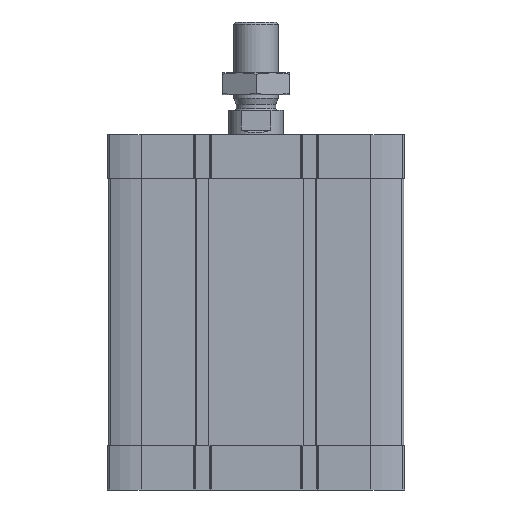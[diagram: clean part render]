
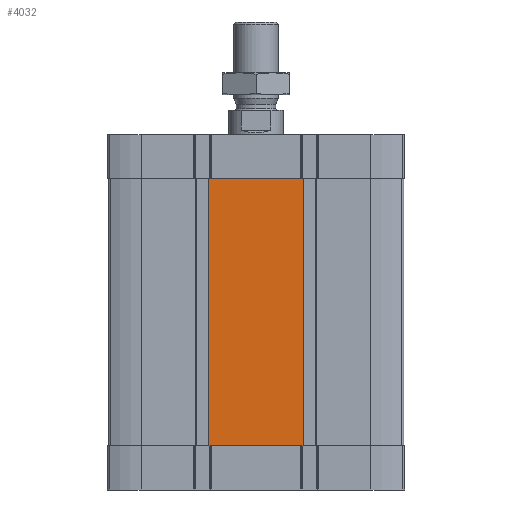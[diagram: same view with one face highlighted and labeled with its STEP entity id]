
A CAD part, front view. The second image highlights one B-rep face of the part: STEP entity #4032.
In plain terms, the highlighted planar face has unit normal (0, -1, 0).
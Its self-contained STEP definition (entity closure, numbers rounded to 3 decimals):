
#159 = CARTESIAN_POINT ( 'NONE',  ( 21.3, -67., -20. ) ) ;
#282 = DIRECTION ( 'NONE',  ( 0., 0., 1. ) ) ;
#369 = DIRECTION ( 'NONE',  ( 1., 0., 0. ) ) ;
#506 = EDGE_CURVE ( 'NONE', #3182, #7370, #9829, .T. ) ;
#554 = LINE ( 'NONE', #11751, #2212 ) ;
#734 = EDGE_CURVE ( 'NONE', #16715, #10076, #554, .T. ) ;
#979 = CARTESIAN_POINT ( 'NONE',  ( -20.687, -67., -20. ) ) ;
#984 = ORIENTED_EDGE ( 'NONE', *, *, #506, .F. ) ;
#1417 = FACE_OUTER_BOUND ( 'NONE', #16970, .T. ) ;
#1532 = EDGE_CURVE ( 'NONE', #2213, #3182, #2790, .T. ) ;
#1859 = DIRECTION ( 'NONE',  ( 1., 0., 0. ) ) ;
#2126 = VECTOR ( 'NONE', #15623, 1000. ) ;
#2212 = VECTOR ( 'NONE', #17341, 1000. ) ;
#2213 = VERTEX_POINT ( 'NONE', #979 ) ;
#2370 = CARTESIAN_POINT ( 'NONE',  ( -21.3, -67., -141. ) ) ;
#2790 = LINE ( 'NONE', #17001, #4752 ) ;
#2869 = CARTESIAN_POINT ( 'NONE',  ( -67., -67., -141. ) ) ;
#3182 = VERTEX_POINT ( 'NONE', #4508 ) ;
#3207 = EDGE_CURVE ( 'NONE', #12207, #7370, #10281, .T. ) ;
#3558 = VERTEX_POINT ( 'NONE', #17976 ) ;
#4032 = ADVANCED_FACE ( 'NONE', ( #1417 ), #9771, .T. ) ;
#4243 = LINE ( 'NONE', #2869, #2126 ) ;
#4508 = CARTESIAN_POINT ( 'NONE',  ( 20.687, -67., -20. ) ) ;
#4537 = DIRECTION ( 'NONE',  ( 0., 0., -1. ) ) ;
#4572 = EDGE_CURVE ( 'NONE', #3558, #12755, #6488, .T. ) ;
#4578 = ORIENTED_EDGE ( 'NONE', *, *, #12752, .T. ) ;
#4689 = CARTESIAN_POINT ( 'NONE',  ( 21.3, -67., -141. ) ) ;
#4752 = VECTOR ( 'NONE', #1859, 1000. ) ;
#5444 = VECTOR ( 'NONE', #11130, 1000. ) ;
#5518 = ORIENTED_EDGE ( 'NONE', *, *, #13823, .T. ) ;
#5846 = ORIENTED_EDGE ( 'NONE', *, *, #1532, .F. ) ;
#5884 = LINE ( 'NONE', #8475, #5444 ) ;
#5898 = VECTOR ( 'NONE', #16694, 1000. ) ;
#6488 = LINE ( 'NONE', #2370, #7432 ) ;
#6899 = AXIS2_PLACEMENT_3D ( 'NONE', #7098, #16922, #4537 ) ;
#6947 = VECTOR ( 'NONE', #369, 1000. ) ;
#6982 = ORIENTED_EDGE ( 'NONE', *, *, #4572, .F. ) ;
#7098 = CARTESIAN_POINT ( 'NONE',  ( -67., -67., -141. ) ) ;
#7129 = ORIENTED_EDGE ( 'NONE', *, *, #3207, .T. ) ;
#7367 = CARTESIAN_POINT ( 'NONE',  ( 20.687, -67., -141. ) ) ;
#7370 = VERTEX_POINT ( 'NONE', #159 ) ;
#7432 = VECTOR ( 'NONE', #7698, 1000. ) ;
#7698 = DIRECTION ( 'NONE',  ( 0., 0., 1. ) ) ;
#8475 = CARTESIAN_POINT ( 'NONE',  ( -67., -67., -141. ) ) ;
#8871 = VECTOR ( 'NONE', #282, 1000. ) ;
#9771 = PLANE ( 'NONE',  #6899 ) ;
#9829 = LINE ( 'NONE', #12948, #6947 ) ;
#10076 = VERTEX_POINT ( 'NONE', #7367 ) ;
#10281 = LINE ( 'NONE', #4689, #8871 ) ;
#11130 = DIRECTION ( 'NONE',  ( 1., 0., 0. ) ) ;
#11193 = CARTESIAN_POINT ( 'NONE',  ( -67., -67., -20. ) ) ;
#11751 = CARTESIAN_POINT ( 'NONE',  ( -21.3, -67., -141. ) ) ;
#12207 = VERTEX_POINT ( 'NONE', #17843 ) ;
#12752 = EDGE_CURVE ( 'NONE', #10076, #12207, #4243, .T. ) ;
#12755 = VERTEX_POINT ( 'NONE', #13789 ) ;
#12948 = CARTESIAN_POINT ( 'NONE',  ( -67., -67., -20. ) ) ;
#13154 = EDGE_CURVE ( 'NONE', #12755, #2213, #16885, .T. ) ;
#13789 = CARTESIAN_POINT ( 'NONE',  ( -21.3, -67., -20. ) ) ;
#13823 = EDGE_CURVE ( 'NONE', #3558, #16715, #5884, .T. ) ;
#13934 = CARTESIAN_POINT ( 'NONE',  ( -20.687, -67., -141. ) ) ;
#15623 = DIRECTION ( 'NONE',  ( 1., 0., 0. ) ) ;
#15800 = ORIENTED_EDGE ( 'NONE', *, *, #13154, .F. ) ;
#16694 = DIRECTION ( 'NONE',  ( 1., 0., 0. ) ) ;
#16715 = VERTEX_POINT ( 'NONE', #13934 ) ;
#16885 = LINE ( 'NONE', #11193, #5898 ) ;
#16922 = DIRECTION ( 'NONE',  ( 0., -1., 0. ) ) ;
#16970 = EDGE_LOOP ( 'NONE', ( #6982, #5518, #17441, #4578, #7129, #984, #5846, #15800 ) ) ;
#17001 = CARTESIAN_POINT ( 'NONE',  ( -21.3, -67., -20. ) ) ;
#17341 = DIRECTION ( 'NONE',  ( 1., 0., 0. ) ) ;
#17441 = ORIENTED_EDGE ( 'NONE', *, *, #734, .T. ) ;
#17843 = CARTESIAN_POINT ( 'NONE',  ( 21.3, -67., -141. ) ) ;
#17976 = CARTESIAN_POINT ( 'NONE',  ( -21.3, -67., -141. ) ) ;
